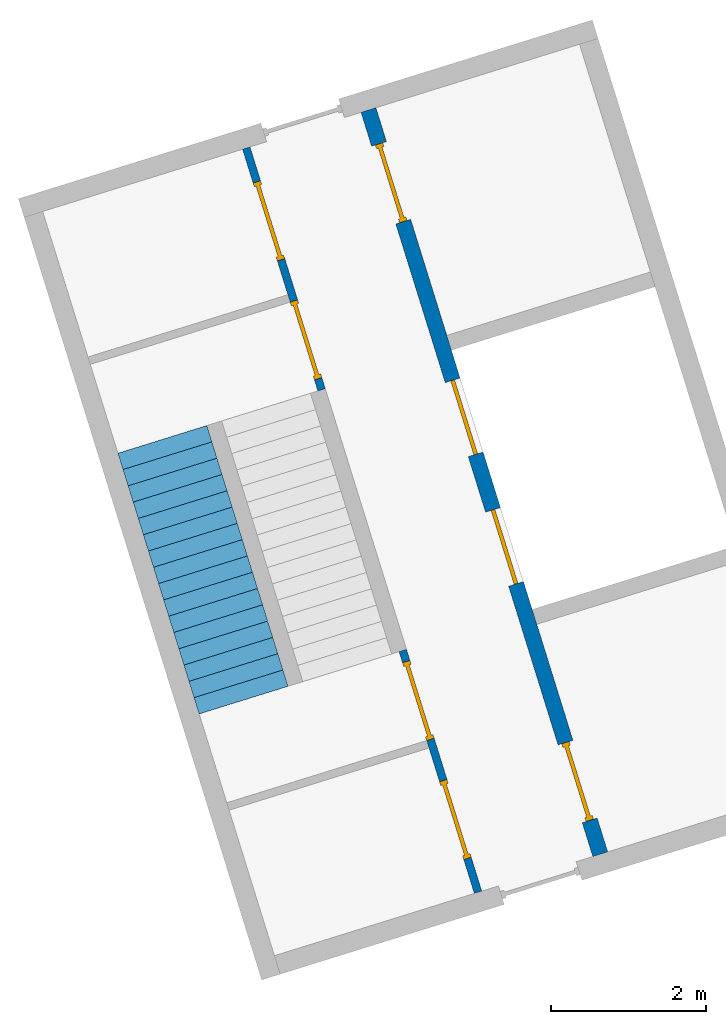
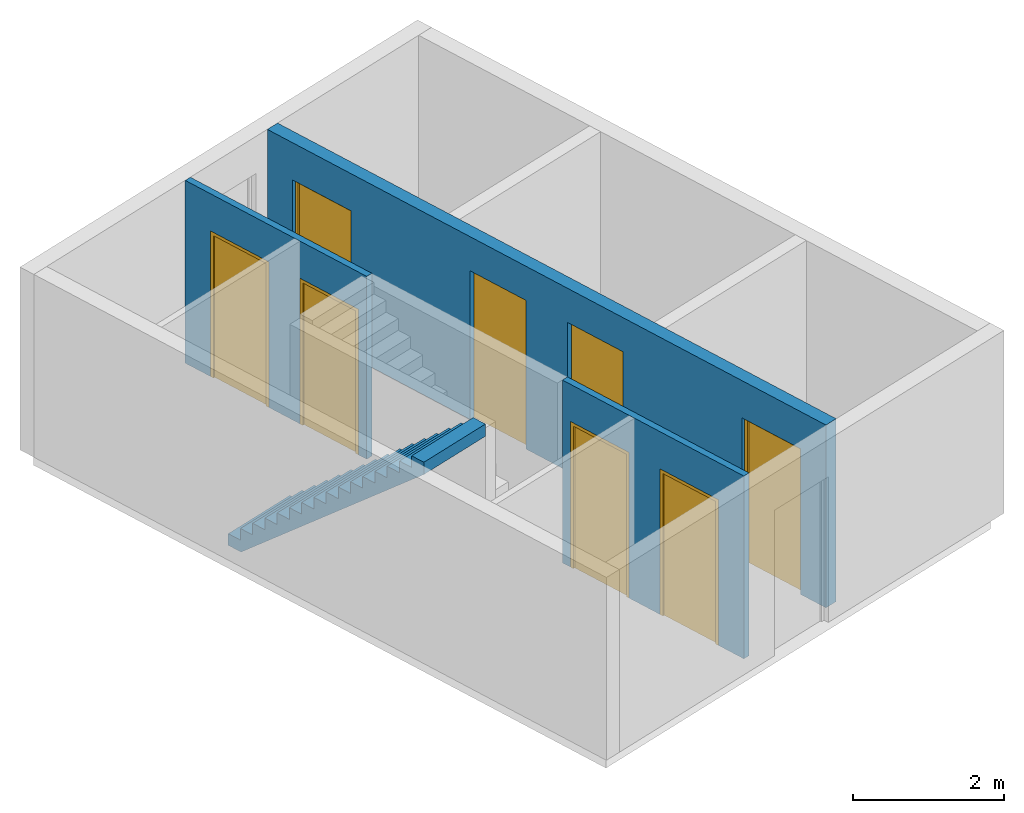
# One storey, part 2 of 3: 8 doors, 3 walls, 1 stair flight, 8 openings, 1 element without a shape of its own.
"""IFC4 building model written with IfcOpenShell, lengths in metres."""

from ifc_helpers import new_model, entity, si_unit, converted_unit, direction, frame, origin, place, context, subcontext, project, spatial, indexed_curve, outline, extrude, polygons, source, transform, mapped, material, constituent, constituent_set, type_object, type_shapes, element, fill, aggregate, save


model = new_model("IFC4")

# Units and contexts
model_context = context("Model", 3, precision=1e-05, world=origin(), true_north=direction((6.12323399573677e-17, 1.0)))
body_context = subcontext(model_context, "Body", "Model", "MODEL_VIEW")
ifc_project = project(units=[si_unit("LENGTHUNIT", "METRE"), si_unit("AREAUNIT", "SQUARE_METRE"), si_unit("VOLUMEUNIT", "CUBIC_METRE"), converted_unit("PLANEANGLEUNIT", "DEGREE", entity("IfcPlaneAngleMeasure", 0.0174532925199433), si_unit("PLANEANGLEUNIT", "RADIAN"), dimensions=[0, 0, 0, 0, 0, 0, 0])], contexts=[model_context])

# Site, building, storey
site_placement = place(None, frame((13.1347999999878, 11.9886000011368, 0.0), z_axis=(0.0, 0.0, 1.0), x_axis=(0.954770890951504, 0.297342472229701, 0.0)))
site = spatial("IfcSite", under=ifc_project, at=site_placement, Name="Schiehaven", CompositionType="ELEMENT")
building_placement = place(site_placement, origin())
building = spatial("IfcBuilding", under=site, at=building_placement, Name="VORM huis", CompositionType="ELEMENT")
storey_placement = place(building_placement, frame((0.0, 0.0, -3.2)))
storey = spatial("IfcBuildingStorey", under=building, at=storey_placement, Name="-1 kelder", CompositionType="ELEMENT", Elevation=-3.2)

# Wall, openings, doors
ifc_material_1 = material(Name="beton_gewapend_prefab-element", Category="Miscellaneous")
wall_type_1 = type_object("IfcWallType", Name="Basic Wall:28_WA_skelet_wand 200mm_gen", PredefinedType="STANDARD")
wall_1_placement = place(storey_placement, frame((69.5250000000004, 22.0749999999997, 0.0), z_axis=(0.0, 0.0, 1.0), x_axis=(0.0, -1.0, 0.0)))
wall_1 = element("IfcWall", 1, at=wall_1_placement, inside=storey, type_object=wall_type_1, material=ifc_material_1, Name="Constructieve wand", ObjectType="Wand", PredefinedType="NOTDEFINED", context=body_context, shape_type="Tessellation", body=[
    polygons([(1.50749999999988, -0.099999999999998, 2.34999999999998), (1.50749999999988, -0.099999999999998, 0.0), (3.64999999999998, -0.100000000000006, 0.0), (3.64999999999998, -0.100000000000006, 2.39999999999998), (4.64999999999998, -0.099999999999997, 2.39999999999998), (4.64999999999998, -0.099999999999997, 0.0), (5.39999999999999, -0.0999999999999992, 0.0), (5.39999999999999, -0.0999999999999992, 2.39999999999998), (6.39999999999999, -0.0999999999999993, 2.39999999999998), (6.39999999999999, -0.0999999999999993, 0.0), (8.54249999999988, -0.0999999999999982, 0.0), (8.54249999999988, -0.0999999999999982, 2.34999999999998), (9.59249999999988, -0.0999999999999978, 2.34999999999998), (9.59249999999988, -0.0999999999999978, 0.0), (10.05, -0.0999999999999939, 0.0), (10.05, -0.0999999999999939, 2.95), (0.0, -0.0999999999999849, 2.95), (0.0, -0.0999999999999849, 0.0), (0.457499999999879, -0.0999999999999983, 0.0), (0.457499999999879, -0.0999999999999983, 2.34999999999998), (3.64999999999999, 0.100000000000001, 0.0), (3.27499999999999, 0.0999999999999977, 0.0), (3.07499999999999, 0.100000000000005, 0.0), (1.50749999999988, 0.0999999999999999, 0.0), (1.50749999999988, 0.0999999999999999, 2.34999999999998), (0.457499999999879, 0.0999999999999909, 2.34999999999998), (0.457499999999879, 0.0999999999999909, 0.0), (0.0, 0.100000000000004, 0.0), (0.0, 0.100000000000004, 2.95), (3.07499999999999, 0.100000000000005, 2.95), (3.27499999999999, 0.0999999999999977, 2.95), (6.77499999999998, 0.100000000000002, 2.95), (6.97499999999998, 0.100000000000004, 2.95), (10.05, 0.100000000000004, 2.95), (10.05, 0.100000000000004, 0.0), (9.59249999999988, 0.1, 0.0), (9.59249999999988, 0.1, 2.34999999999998), (8.54249999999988, 0.099999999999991, 2.34999999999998), (8.54249999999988, 0.099999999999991, 0.0), (6.97499999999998, 0.100000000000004, 0.0), (6.77499999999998, 0.100000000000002, 0.0), (6.39999999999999, 0.0999999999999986, 0.0), (6.39999999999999, 0.0999999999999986, 2.39999999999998), (5.39999999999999, 0.0999999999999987, 2.39999999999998), (5.39999999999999, 0.0999999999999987, 0.0), (4.64999999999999, 0.10000000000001, 0.0), (4.64999999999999, 0.10000000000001, 2.39999999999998), (3.64999999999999, 0.100000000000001, 2.39999999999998)], [[[1, 2, 3, 4, 5, 6, 7, 8, 9, 10, 11, 12, 13, 14, 15, 16, 17, 18, 19, 20]], [[21, 22, 23, 24, 25, 26, 27, 28, 29, 30, 31, 32, 33, 34, 35, 36, 37, 38, 39, 40, 41, 42, 43, 44, 45, 46, 47, 48]], [[19, 18, 28, 27]], [[16, 15, 35, 34]], [[17, 16, 34, 33, 32, 31, 30, 29]], [[18, 17, 29, 28]], [[5, 47, 46, 6]], [[48, 4, 3, 21]], [[47, 5, 4, 48]], [[9, 43, 42, 10]], [[44, 8, 7, 45]], [[43, 9, 8, 44]], [[27, 26, 20, 19]], [[25, 24, 2, 1]], [[26, 25, 1, 20]], [[14, 13, 37, 36]], [[12, 11, 39, 38]], [[13, 12, 38, 37]], [[3, 2, 24, 23, 22, 21]], [[6, 46, 45, 7]], [[36, 35, 15, 14]], [[42, 41, 40, 39, 11, 10]]], closed=True),
])
opening_1_placement = place(wall_1_placement, frame((22.0749999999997, -69.5250000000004, 0.0), z_axis=(0.0, 0.0, 1.0), x_axis=(0.0, 1.0, 0.0)))
opening_1 = element("IfcOpeningElement", 2, at=opening_1_placement, cuts=wall_1, Name="Brandweerlift", PredefinedType="OPENING", context=body_context, shape_type="SweptSolid", body=[
    extrude(outline(indexed_curve([(-1.19999999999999, -0.499999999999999), (1.19999999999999, -0.499999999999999), (1.19999999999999, 0.500000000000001), (-1.19999999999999, 0.500000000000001), (-1.19999999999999, -0.499999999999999)], self_intersect=False)), frame((69.2563279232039, 17.9249999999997, 1.19999999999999), z_axis=(1.0, 0.0, 0.0), x_axis=(0.0, 0.0, -1.0)), (0.0, 0.0, 1.0), 0.756310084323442),
])
opening_2_placement = place(wall_1_placement, frame((22.0749999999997, -69.5250000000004, 0.0), z_axis=(0.0, 0.0, 1.0), x_axis=(0.0, 1.0, 0.0)))
opening_2 = element("IfcOpeningElement", 3, at=opening_2_placement, cuts=wall_1, Name="Brandweerlift", PredefinedType="OPENING", context=body_context, shape_type="SweptSolid", body=[
    extrude(outline(indexed_curve([(-1.19999999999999, -0.500000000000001), (1.19999999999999, -0.500000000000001), (1.19999999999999, 0.499999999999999), (-1.19999999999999, 0.499999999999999), (-1.19999999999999, -0.500000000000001)], self_intersect=False)), frame((69.2563279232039, 16.1749999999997, 1.19999999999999), z_axis=(1.0, 0.0, 0.0), x_axis=(0.0, 0.0, -1.0)), (0.0, 0.0, 1.0), 0.756310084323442),
])
opening_3_placement = place(wall_1_placement, frame((9.59249999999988, 0.0999999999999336, 0.0)))
opening_3 = element("IfcOpeningElement", 4, at=opening_3_placement, cuts=wall_1, Name="Vluchtdeur", PredefinedType="OPENING", context=body_context, shape_type="SweptSolid", body=[
    extrude(outline(indexed_curve([(2.34999999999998, 1.08286712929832e-15), (2.34999999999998, 1.05), (0.0, 1.05), (0.0, 1.08286712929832e-15), (2.34999999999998, 1.08286712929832e-15)], self_intersect=False)), frame((0.0, 0.0, 0.0), z_axis=(0.0, -1.0, 0.0), x_axis=(0.0, 0.0, 1.0)), (0.0, 0.0, 1.0), 0.2),
])
opening_4_placement = place(wall_1_placement, frame((1.50749999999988, 0.100000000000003, 0.0)))
opening_4 = element("IfcOpeningElement", 5, at=opening_4_placement, cuts=wall_1, Name="Vluchtdeur", PredefinedType="OPENING", context=body_context, shape_type="SweptSolid", body=[
    extrude(outline(indexed_curve([(2.34999999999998, 1.05), (0.0, 1.05), (0.0, -7.13446048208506e-29), (2.34999999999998, -7.13446048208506e-29), (2.34999999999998, 1.05)], self_intersect=False)), frame((0.0, 0.0, 0.0), z_axis=(0.0, -1.0, 0.0), x_axis=(0.0, 0.0, 1.0)), (0.0, 0.0, 1.0), 0.2),
])
ifc_material_2 = material(Name="metaal_aluminium_ntb", Category="Miscellaneous")
door_type_1 = type_object("IfcDoorType", Name="66_WI_liftdeur:brandweerlift - eenzijdig toegankelijk", OperationType="NOTDEFINED", PredefinedType="DOOR", material=ifc_material_2)
shared_shape_1 = source(origin(), body_context, "Body", "SweptSolid", [
    extrude(outline(indexed_curve([(-0.0250000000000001, -0.25), (0.0249999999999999, -0.25), (0.0250000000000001, 0.25), (-0.0249999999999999, 0.25), (-0.0250000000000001, -0.25)], self_intersect=False)), frame((0.250000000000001, 0.487638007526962, 0.0), z_axis=(0.0, 0.0, 1.0), x_axis=(0.0, 1.0, 0.0)), (0.0, 0.0, 1.0), 2.39999999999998),
    extrude(outline(indexed_curve([(-0.0250000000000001, -0.25), (0.0249999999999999, -0.25), (0.0250000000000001, 0.25), (-0.0249999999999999, 0.25), (-0.0250000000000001, -0.25)], self_intersect=False)), frame((0.750000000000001, 0.48763800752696, 0.0), z_axis=(0.0, 0.0, 1.0), x_axis=(0.0, 1.0, 0.0)), (0.0, 0.0, 1.0), 2.39999999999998),
])
type_shapes(door_type_1, [shared_shape_1])
door_1_placement = place(opening_1_placement, frame((70.0126380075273, 17.4249999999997, 0.0), z_axis=(0.0, 0.0, 1.0), x_axis=(0.0, 1.0, 0.0)))
door_1 = element("IfcDoor", 6, at=door_1_placement, inside=storey, type_object=door_type_1, material=ifc_material_2, Name="Brandweerlift", ObjectType="Transport", OperationType="NOTDEFINED", OverallHeight=2.39999999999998, OverallWidth=1.0, PredefinedType="DOOR", context=body_context, shape_type="MappedRepresentation", body=[
    mapped(shared_shape_1, transform((0.0, 0.0, 0.0), scale=1.0)),
])
fill(opening_1, door_1)
door_2_placement = place(opening_2_placement, frame((70.0126380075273, 15.6749999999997, 0.0), z_axis=(0.0, 0.0, 1.0), x_axis=(0.0, 1.0, 0.0)))
door_2 = element("IfcDoor", 7, at=door_2_placement, inside=storey, type_object=door_type_1, material=ifc_material_2, Name="Brandweerlift", ObjectType="Transport", OperationType="NOTDEFINED", OverallHeight=2.39999999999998, OverallWidth=1.0, PredefinedType="DOOR", context=body_context, shape_type="MappedRepresentation", body=[
    mapped(shared_shape_1, transform((0.0, 0.0, 0.0), scale=1.0)),
])
fill(opening_2, door_2)
ifc_material_3 = material(Name="PD_a_binnenwandopeningen", Category="Miscellaneous")
ifc_constituent_1 = constituent(ifc_material_3, Name="PD_a_binnenwandopeningen", Category="Miscellaneous")
ifc_constituent_2 = constituent(ifc_material_2, Name="metaal_aluminium_ntb", Category="Miscellaneous")
ifc_constituent_set_1 = constituent_set(constituents=[ifc_constituent_1, ifc_constituent_2])
ifc_constituent_3 = constituent(ifc_material_3, Name="PD_a_binnenwandopeningen", Category="Miscellaneous")
ifc_constituent_4 = constituent(ifc_material_2, Name="Panel", Category="Miscellaneous")
ifc_constituent_set_2 = constituent_set(constituents=[ifc_constituent_3, ifc_constituent_4])
door_type_2 = type_object("IfcDoorType", Name="32_DO_binnendeur enkel:binnendeur zelfsluitend 30min", OperationType="NOTDEFINED", PredefinedType="DOOR", material=ifc_constituent_set_2)
shared_shape_2 = source(origin(), body_context, "Body", "SweptSolid", [
    extrude(outline(indexed_curve([(0.475, -1.16249999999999), (0.525, -1.16249999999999), (0.525, 1.18749999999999), (-0.525, 1.18749999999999), (-0.525, -1.16249999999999), (-0.475, -1.16249999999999), (-0.475, 1.13749999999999), (0.475, 1.13749999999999), (0.475, -1.16249999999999)], self_intersect=False)), frame((0.525000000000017, 0.149999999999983, 1.16249999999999), z_axis=(0.0, -1.0, 0.0), x_axis=(1.0, 0.0, 0.0)), (0.0, 0.0, 1.0), 0.1),
    extrude(outline(indexed_curve([(-0.475, -0.025), (0.475, -0.025), (0.475, 0.025), (-0.475, 0.025), (-0.475, -0.025)], self_intersect=False)), frame((0.525000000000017, 0.0999999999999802, 0.0)), (0.0, 0.0, 1.0), 2.29999999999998),
])
type_shapes(door_type_2, [shared_shape_2])
door_3_placement = place(opening_3_placement, frame((0.0, 0.0, 0.0), z_axis=(0.0, 0.0, 1.0), x_axis=(-1.0, 0.0, 0.0)))
door_3 = element("IfcDoor", 8, at=door_3_placement, inside=storey, type_object=door_type_2, material=ifc_constituent_set_1, Name="Vluchtdeur", ObjectType="Deur", OperationType="NOTDEFINED", OverallHeight=2.34999999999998, OverallWidth=1.05, PredefinedType="DOOR", context=body_context, shape_type="MappedRepresentation", body=[
    mapped(shared_shape_2, transform((0.0, 0.0, 0.0), scale=1.0)),
])
fill(opening_3, door_3)
ifc_constituent_5 = constituent(ifc_material_3, Name="PD_a_binnenwandopeningen", Category="Miscellaneous")
ifc_constituent_6 = constituent(ifc_material_2, Name="metaal_aluminium_ntb", Category="Miscellaneous")
ifc_constituent_set_3 = constituent_set(constituents=[ifc_constituent_5, ifc_constituent_6])
ifc_constituent_7 = constituent(ifc_material_3, Name="PD_a_binnenwandopeningen", Category="Miscellaneous")
ifc_constituent_8 = constituent(ifc_material_2, Name="Panel", Category="Miscellaneous")
ifc_constituent_set_4 = constituent_set(constituents=[ifc_constituent_7, ifc_constituent_8])
door_type_3 = type_object("IfcDoorType", Name="32_DO_binnendeur enkel:binnendeur zelfsluitend 30min", OperationType="NOTDEFINED", PredefinedType="DOOR", material=ifc_constituent_set_4)
shared_shape_3 = source(origin(), body_context, "Body", "SweptSolid", [
    extrude(outline(indexed_curve([(-1.16249999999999, -0.525), (1.18749999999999, -0.525000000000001), (1.18749999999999, 0.525), (-1.16249999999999, 0.525), (-1.16249999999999, 0.475), (1.13749999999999, 0.475), (1.13749999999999, -0.475), (-1.16249999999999, -0.475), (-1.16249999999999, -0.525)], self_intersect=False)), frame((0.525000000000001, 0.0499999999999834, 1.16249999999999), z_axis=(0.0, 1.0, 0.0), x_axis=(0.0, 0.0, 1.0)), (0.0, 0.0, 1.0), 0.1),
    extrude(outline(indexed_curve([(-0.025, -0.475), (0.025, -0.475), (0.025, 0.475), (-0.025, 0.475), (-0.025, -0.475)], self_intersect=False)), frame((0.525000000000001, 0.0999999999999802, 0.0), z_axis=(0.0, 0.0, 1.0), x_axis=(0.0, 1.0, 0.0)), (0.0, 0.0, 1.0), 2.29999999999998),
])
type_shapes(door_type_3, [shared_shape_3])
door_4_placement = place(opening_4_placement, frame((0.0, 0.0, 0.0), z_axis=(0.0, 0.0, 1.0), x_axis=(-1.0, 0.0, 0.0)))
door_4 = element("IfcDoor", 9, at=door_4_placement, inside=storey, type_object=door_type_3, material=ifc_constituent_set_3, Name="Vluchtdeur", ObjectType="Deur", OperationType="NOTDEFINED", OverallHeight=2.34999999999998, OverallWidth=1.05, PredefinedType="DOOR", context=body_context, shape_type="MappedRepresentation", body=[
    mapped(shared_shape_3, transform((0.0, 0.0, 0.0), scale=1.0)),
])
fill(opening_4, door_4)

ifc_material_4 = material(Name="ntb_ntb_ntb", Category="Miscellaneous")
wall_type_2 = type_object("IfcWallType", Name="Basic Wall:22_WA_afbouw_binnenwand 100mm_gen", PredefinedType="STANDARD")
wall_2_placement = place(storey_placement, frame((67.8750000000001, 22.0749999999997, 0.0), z_axis=(0.0, 0.0, 1.0), x_axis=(0.0, -1.0, 0.0)))
wall_2 = element("IfcWall", 10, at=wall_2_placement, inside=storey, type_object=wall_type_2, material=ifc_material_4, Name="Binnenwand", ObjectType="Wand", PredefinedType="NOTDEFINED", context=body_context, shape_type="Tessellation", body=[
    polygons([(0.0, -0.0500000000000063, 0.0), (0.457499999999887, -0.0500000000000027, 0.0), (0.457499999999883, -0.0500000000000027, 2.34999999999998), (1.50749999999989, -0.0500000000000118, 2.34999999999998), (1.50749999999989, -0.0500000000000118, 0.0), (1.96499999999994, -0.0500000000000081, 0.0), (2.06499999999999, -0.0500000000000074, 0.0), (2.06499999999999, -0.0500000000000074, 2.34999999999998), (3.11499999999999, -0.0500000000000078, 2.34999999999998), (3.11499999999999, -0.0500000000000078, 0.0), (3.26499999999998, -0.0500000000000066, 0.0), (3.26499999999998, -0.0500000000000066, 2.95), (2.06499999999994, -0.0500000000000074, 2.95), (1.96499999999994, -0.0500000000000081, 2.95), (0.0, -0.0500000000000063, 2.95), (0.457499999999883, 0.0500000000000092, 2.34999999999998), (0.457499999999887, 0.0500000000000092, 0.0), (0.0, 0.0500000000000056, 0.0), (0.0, 0.0500000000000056, 2.95), (3.26499999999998, 0.0499999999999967, 2.95), (3.26499999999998, 0.0499999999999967, 0.0), (3.11499999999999, 0.0499999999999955, 0.0), (3.11499999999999, 0.0499999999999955, 2.34999999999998), (2.06499999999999, 0.0499999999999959, 2.34999999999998), (2.06499999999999, 0.0499999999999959, 0.0), (1.50749999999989, 0.0500000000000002, 0.0), (1.50749999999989, 0.0500000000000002, 2.34999999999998)], [[[1, 2, 3, 4, 5, 6, 7, 8, 9, 10, 11, 12, 13, 14, 15]], [[16, 17, 18, 19, 20, 21, 22, 23, 24, 25, 26, 27]], [[18, 17, 2, 1]], [[12, 11, 21, 20]], [[15, 14, 13, 12, 20, 19]], [[1, 15, 19, 18]], [[24, 8, 7, 25]], [[9, 23, 22, 10]], [[8, 24, 23, 9]], [[5, 4, 27, 26]], [[3, 2, 17, 16]], [[4, 3, 16, 27]], [[26, 25, 7, 6, 5]], [[21, 11, 10, 22]]], closed=True),
])
opening_5_placement = place(wall_2_placement, frame((3.11499999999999, 0.0499999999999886, 0.0)))
opening_5 = element("IfcOpeningElement", 11, at=opening_5_placement, cuts=wall_2, Name="Vluchtdeur", PredefinedType="OPENING", context=body_context, shape_type="SweptSolid", body=[
    extrude(outline(indexed_curve([(2.34999999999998, 1.05), (0.0, 1.05), (0.0, 1.08286712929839e-15), (2.34999999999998, 1.08286712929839e-15), (2.34999999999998, 1.05)], self_intersect=False)), frame((0.0, 0.0, 0.0), z_axis=(0.0, -1.0, 0.0), x_axis=(0.0, 0.0, 1.0)), (0.0, 0.0, 1.0), 0.1),
])
opening_6_placement = place(wall_2_placement, frame((0.457499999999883, -0.0499999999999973, 0.0)))
opening_6 = element("IfcOpeningElement", 12, at=opening_6_placement, cuts=wall_2, Name="Vluchtdeur", PredefinedType="OPENING", context=body_context, shape_type="SweptSolid", body=[
    extrude(outline(indexed_curve([(2.34999999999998, 1.05), (0.0, 1.05), (0.0, 0.0), (2.34999999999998, 0.0), (2.34999999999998, 1.05)], self_intersect=False)), frame((0.0, 0.0, 0.0), z_axis=(0.0, 1.0, 0.0), x_axis=(0.0, 0.0, 1.0)), (0.0, 0.0, 1.0), 0.1),
])
ifc_constituent_9 = constituent(ifc_material_3, Name="PD_a_binnenwandopeningen", Category="Miscellaneous")
ifc_constituent_10 = constituent(ifc_material_2, Name="metaal_aluminium_ntb", Category="Miscellaneous")
ifc_constituent_set_5 = constituent_set(constituents=[ifc_constituent_9, ifc_constituent_10])
ifc_constituent_11 = constituent(ifc_material_3, Name="PD_a_binnenwandopeningen", Category="Miscellaneous")
ifc_constituent_12 = constituent(ifc_material_2, Name="Panel", Category="Miscellaneous")
ifc_constituent_set_6 = constituent_set(constituents=[ifc_constituent_11, ifc_constituent_12])
door_type_4 = type_object("IfcDoorType", Name="32_DO_binnendeur enkel:binnendeur zelfsluitend 30min", OperationType="NOTDEFINED", PredefinedType="DOOR", material=ifc_constituent_set_6)
shared_shape_4 = source(origin(), body_context, "Body", "SweptSolid", [
    extrude(outline(indexed_curve([(-1.16249999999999, -0.525000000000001), (1.18749999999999, -0.525), (1.18749999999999, 0.525), (-1.16249999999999, 0.525), (-1.16249999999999, 0.475), (1.13749999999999, 0.475), (1.13749999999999, -0.475), (-1.16249999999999, -0.475), (-1.16249999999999, -0.525000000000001)], self_intersect=False)), frame((0.525000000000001, 0.0, 1.16249999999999), z_axis=(0.0, 1.0, 0.0), x_axis=(0.0, 0.0, 1.0)), (0.0, 0.0, 1.0), 0.1),
    extrude(outline(indexed_curve([(-0.025, -0.475), (0.025, -0.475), (0.025, 0.475), (-0.025, 0.475), (-0.025, -0.475)], self_intersect=False)), frame((0.525000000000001, 0.0499999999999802, 0.0), z_axis=(0.0, 0.0, 1.0), x_axis=(0.0, 1.0, 0.0)), (0.0, 0.0, 1.0), 2.29999999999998),
])
type_shapes(door_type_4, [shared_shape_4])
door_5_placement = place(opening_5_placement, frame((0.0, 0.0, 0.0), z_axis=(0.0, 0.0, 1.0), x_axis=(-1.0, 0.0, 0.0)))
door_5 = element("IfcDoor", 13, at=door_5_placement, inside=storey, type_object=door_type_4, material=ifc_constituent_set_5, Name="Vluchtdeur", ObjectType="Deur", OperationType="NOTDEFINED", OverallHeight=2.34999999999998, OverallWidth=1.05, PredefinedType="DOOR", context=body_context, shape_type="MappedRepresentation", body=[
    mapped(shared_shape_4, transform((0.0, 0.0, 0.0), scale=1.0)),
])
fill(opening_5, door_5)
ifc_constituent_13 = constituent(ifc_material_3, Name="PD_a_binnenwandopeningen", Category="Miscellaneous")
ifc_constituent_14 = constituent(ifc_material_2, Name="metaal_aluminium_ntb", Category="Miscellaneous")
ifc_constituent_set_7 = constituent_set(constituents=[ifc_constituent_13, ifc_constituent_14])
door_6_placement = place(opening_6_placement, origin())
door_6 = element("IfcDoor", 14, at=door_6_placement, inside=storey, type_object=door_type_4, material=ifc_constituent_set_7, Name="Vluchtdeur", ObjectType="Deur", OperationType="NOTDEFINED", OverallHeight=2.34999999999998, OverallWidth=1.05, PredefinedType="DOOR", context=body_context, shape_type="MappedRepresentation", body=[
    mapped(shared_shape_4, transform((0.0, 0.0, 0.0), scale=1.0)),
])
fill(opening_6, door_6)

wall_3_placement = place(storey_placement, frame((67.875, 12.0249999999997, 0.0), z_axis=(0.0, 0.0, 1.0), x_axis=(0.0, 1.0, 0.0)))
wall_3 = element("IfcWall", 15, at=wall_3_placement, inside=storey, type_object=wall_type_2, material=ifc_material_4, Name="Binnenwand", ObjectType="Wand", PredefinedType="NOTDEFINED", context=body_context, shape_type="Tessellation", body=[
    polygons([(0.0, -0.0500000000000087, 0.0), (0.457500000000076, -0.0500000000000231, 0.0), (0.457500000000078, -0.0500000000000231, 2.34999999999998), (1.50750000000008, -0.0500000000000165, 2.34999999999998), (1.50750000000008, -0.0500000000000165, 0.0), (2.06499999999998, -0.0500000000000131, 0.0), (2.06499999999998, -0.0500000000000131, 2.34999999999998), (3.11499999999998, -0.0500000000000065, 2.34999999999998), (3.11499999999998, -0.0500000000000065, 0.0), (3.26499999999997, -0.0500000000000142, 0.0), (3.26499999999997, -0.0500000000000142, 2.95), (0.0, -0.0500000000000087, 2.95), (0.457500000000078, 0.0499999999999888, 2.34999999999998), (0.457500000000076, 0.0499999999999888, 0.0), (0.0, 0.0500000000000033, 0.0), (0.0, 0.0500000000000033, 2.95), (1.96499999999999, 0.0499999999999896, 2.95), (2.06499999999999, 0.0499999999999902, 2.95), (3.26499999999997, 0.049999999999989, 2.95), (3.26499999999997, 0.049999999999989, 0.0), (3.11499999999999, 0.0499999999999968, 0.0), (3.11499999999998, 0.0499999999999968, 2.34999999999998), (2.06499999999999, 0.0499999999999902, 2.34999999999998), (2.06499999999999, 0.0499999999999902, 0.0), (1.96499999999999, 0.0499999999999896, 0.0), (1.50750000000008, 0.0499999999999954, 0.0), (1.50750000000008, 0.0499999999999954, 2.34999999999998)], [[[1, 2, 3, 4, 5, 6, 7, 8, 9, 10, 11, 12]], [[13, 14, 15, 16, 17, 18, 19, 20, 21, 22, 23, 24, 25, 26, 27]], [[15, 14, 2, 1]], [[11, 10, 20, 19]], [[12, 11, 19, 18, 17, 16]], [[1, 12, 16, 15]], [[23, 7, 6, 24]], [[7, 23, 22, 8]], [[8, 22, 21, 9]], [[5, 4, 27, 26]], [[3, 2, 14, 13]], [[4, 3, 13, 27]], [[26, 25, 24, 6, 5]], [[20, 10, 9, 21]]], closed=True),
])
opening_7_placement = place(wall_3_placement, frame((2.06499999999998, -0.0500000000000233, 0.0)))
opening_7 = element("IfcOpeningElement", 16, at=opening_7_placement, cuts=wall_3, Name="Vluchtdeur", PredefinedType="OPENING", context=body_context, shape_type="SweptSolid", body=[
    extrude(outline(indexed_curve([(2.34999999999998, 1.05), (0.0, 1.05), (0.0, 1.35358391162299e-15), (2.34999999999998, 1.35358391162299e-15), (2.34999999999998, 1.05)], self_intersect=False)), frame((0.0, 0.0, 0.0), z_axis=(0.0, 1.0, 0.0), x_axis=(0.0, 0.0, 1.0)), (0.0, 0.0, 1.0), 0.1),
])
opening_8_placement = place(wall_3_placement, frame((1.50750000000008, 0.04999999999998, 0.0)))
opening_8 = element("IfcOpeningElement", 17, at=opening_8_placement, cuts=wall_3, Name="Vluchtdeur", PredefinedType="OPENING", context=body_context, shape_type="SweptSolid", body=[
    extrude(outline(indexed_curve([(2.34999999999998, 1.35358391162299e-15), (2.34999999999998, 1.05), (0.0, 1.05), (0.0, 1.35358391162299e-15), (2.34999999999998, 1.35358391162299e-15)], self_intersect=False)), frame((0.0, 0.0, 0.0), z_axis=(0.0, -1.0, 0.0), x_axis=(0.0, 0.0, 1.0)), (0.0, 0.0, 1.0), 0.1),
])
ifc_constituent_15 = constituent(ifc_material_3, Name="PD_a_binnenwandopeningen", Category="Miscellaneous")
ifc_constituent_16 = constituent(ifc_material_2, Name="metaal_aluminium_ntb", Category="Miscellaneous")
ifc_constituent_set_8 = constituent_set(constituents=[ifc_constituent_15, ifc_constituent_16])
ifc_constituent_17 = constituent(ifc_material_3, Name="PD_a_binnenwandopeningen", Category="Miscellaneous")
ifc_constituent_18 = constituent(ifc_material_2, Name="Panel", Category="Miscellaneous")
ifc_constituent_set_9 = constituent_set(constituents=[ifc_constituent_17, ifc_constituent_18])
door_type_5 = type_object("IfcDoorType", Name="32_DO_binnendeur enkel:binnendeur zelfsluitend 30min", OperationType="NOTDEFINED", PredefinedType="DOOR", material=ifc_constituent_set_9)
shared_shape_5 = source(origin(), body_context, "Body", "SweptSolid", [
    extrude(outline(indexed_curve([(0.475, -1.16249999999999), (0.525, -1.16249999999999), (0.525, 1.18749999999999), (-0.525, 1.18749999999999), (-0.525, -1.16249999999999), (-0.475, -1.16249999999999), (-0.475, 1.13749999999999), (0.475, 1.13749999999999), (0.475, -1.16249999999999)], self_intersect=False)), frame((0.525000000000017, 0.100000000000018, 1.16249999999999), z_axis=(0.0, -1.0, 0.0), x_axis=(1.0, 0.0, 0.0)), (0.0, 0.0, 1.0), 0.1),
    extrude(outline(indexed_curve([(-0.475, -0.025), (0.475, -0.025), (0.475, 0.025), (-0.475, 0.025), (-0.475, -0.025)], self_intersect=False)), frame((0.525000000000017, 0.0499999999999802, 0.0)), (0.0, 0.0, 1.0), 2.29999999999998),
])
type_shapes(door_type_5, [shared_shape_5])
door_7_placement = place(opening_8_placement, frame((0.0, 0.0, 0.0), z_axis=(0.0, 0.0, 1.0), x_axis=(-1.0, 0.0, 0.0)))
door_7 = element("IfcDoor", 18, at=door_7_placement, inside=storey, type_object=door_type_5, material=ifc_constituent_set_8, Name="Vluchtdeur", ObjectType="Deur", OperationType="NOTDEFINED", OverallHeight=2.34999999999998, OverallWidth=1.05, PredefinedType="DOOR", context=body_context, shape_type="MappedRepresentation", body=[
    mapped(shared_shape_5, transform((0.0, 0.0, 0.0), scale=1.0)),
])
fill(opening_8, door_7)
ifc_constituent_19 = constituent(ifc_material_3, Name="PD_a_binnenwandopeningen", Category="Miscellaneous")
ifc_constituent_20 = constituent(ifc_material_2, Name="metaal_aluminium_ntb", Category="Miscellaneous")
ifc_constituent_set_10 = constituent_set(constituents=[ifc_constituent_19, ifc_constituent_20])
door_8_placement = place(opening_7_placement, origin())
door_8 = element("IfcDoor", 19, at=door_8_placement, inside=storey, type_object=door_type_4, material=ifc_constituent_set_10, Name="Vluchtdeur", ObjectType="Deur", OperationType="NOTDEFINED", OverallHeight=2.34999999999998, OverallWidth=1.05, PredefinedType="DOOR", context=body_context, shape_type="MappedRepresentation", body=[
    mapped(shared_shape_4, transform((0.0, 0.0, 0.0), scale=1.0)),
])
fill(opening_7, door_8)

# Stair, stair flight
stair_type = type_object("IfcStairType", Name="Trap", PredefinedType="STRAIGHT_RUN_STAIR")
stair_placement = place(storey_placement, origin())
stair = element("IfcStair", 20, at=stair_placement, inside=storey, type_object=stair_type, Name="Hoofdtrap", ObjectType="Trap", PredefinedType="STRAIGHT_RUN_STAIR")
stair_flight_type = type_object("IfcStairFlightType", Name="Monolithic Run:NLRS_24_STRR_trap-beton prefab-monolithisch-recht_gen_rsf", PredefinedType="STRAIGHT")
stair_flight_placement = place(stair_placement, frame((65.1250000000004, 15.2899999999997, 0.0)))
stair_flight = element("IfcStairFlight", 21, at=stair_flight_placement, type_object=stair_flight_type, material=ifc_material_1, Name="Hoofdtrap Run 1", ObjectType="Monolithic Run:NLRS_24_STRR_trap-beton prefab-monolithisch-recht_gen_rsf", PredefinedType="STRAIGHT", context=body_context, shape_type="Tessellation", body=[
    polygons([(1.20000000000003, 3.3, 0.188235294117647), (1.20000000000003, 3.52, 0.188235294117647), (2.8421709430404e-14, 3.52, 0.188235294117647), (2.8421709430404e-14, 3.3, 0.188235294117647), (1.20000000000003, 3.3, 0.0), (1.20000000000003, 3.52, 0.0), (2.8421709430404e-14, 3.52, 0.0), (2.8421709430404e-14, 3.3, 0.0), (1.20000000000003, 3.07999999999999, 0.376470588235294), (1.20000000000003, 3.3, 0.376470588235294), (2.8421709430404e-14, 3.3, 0.376470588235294), (2.8421709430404e-14, 3.07999999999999, 0.376470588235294), (1.20000000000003, 3.08, 0.179057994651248), (1.20000000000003, 3.28927403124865, -4.44089209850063e-16), (2.8421709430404e-14, 3.28927403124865, -4.44089209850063e-16), (2.8421709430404e-14, 3.08, 0.179057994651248), (1.20000000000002, 2.85999999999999, 0.564705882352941), (1.20000000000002, 3.07999999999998, 0.564705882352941), (1.4210854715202e-14, 3.07999999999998, 0.564705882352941), (1.4210854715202e-14, 2.85999999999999, 0.564705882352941), (1.20000000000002, 2.85999999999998, 0.367293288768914), (1.4210854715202e-14, 2.85999999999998, 0.367293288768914), (1.20000000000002, 2.64, 0.752941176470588), (1.20000000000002, 2.86, 0.752941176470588), (1.4210854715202e-14, 2.86, 0.752941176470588), (1.4210854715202e-14, 2.64, 0.752941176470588), (1.20000000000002, 2.64, 0.555528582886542), (1.4210854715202e-14, 2.64, 0.555528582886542), (1.20000000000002, 2.42, 0.941176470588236), (1.20000000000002, 2.64, 0.941176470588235), (1.4210854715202e-14, 2.64, 0.941176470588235), (1.4210854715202e-14, 2.42, 0.941176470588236), (1.20000000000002, 2.42000000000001, 0.743763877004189), (1.4210854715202e-14, 2.42000000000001, 0.743763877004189), (1.20000000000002, 2.2, 1.12941176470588), (1.20000000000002, 2.42, 1.12941176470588), (1.4210854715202e-14, 2.42, 1.12941176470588), (1.4210854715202e-14, 2.2, 1.12941176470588), (1.20000000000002, 2.2, 0.931999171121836), (1.4210854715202e-14, 2.2, 0.931999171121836), (1.20000000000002, 1.97999999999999, 1.31764705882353), (1.20000000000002, 2.2, 1.31764705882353), (1.4210854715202e-14, 2.2, 1.31764705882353), (1.4210854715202e-14, 1.97999999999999, 1.31764705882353), (1.20000000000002, 1.98, 1.12023446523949), (1.4210854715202e-14, 1.98, 1.12023446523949), (1.20000000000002, 1.75999999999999, 1.50588235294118), (1.20000000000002, 1.97999999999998, 1.50588235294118), (1.4210854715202e-14, 1.97999999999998, 1.50588235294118), (1.4210854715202e-14, 1.75999999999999, 1.50588235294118), (1.20000000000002, 1.75999999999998, 1.30846975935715), (1.4210854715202e-14, 1.75999999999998, 1.30846975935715), (1.20000000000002, 1.54, 1.69411764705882), (1.20000000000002, 1.76, 1.69411764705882), (1.4210854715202e-14, 1.76, 1.69411764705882), (1.4210854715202e-14, 1.54, 1.69411764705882), (1.20000000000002, 1.54, 1.49670505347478), (1.4210854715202e-14, 1.54, 1.49670505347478), (1.20000000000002, 1.32, 1.88235294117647), (1.20000000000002, 1.54, 1.88235294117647), (1.4210854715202e-14, 1.54, 1.88235294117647), (1.4210854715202e-14, 1.32, 1.88235294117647), (1.20000000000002, 1.32, 1.68494034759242), (1.4210854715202e-14, 1.32, 1.68494034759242), (1.20000000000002, 1.1, 2.07058823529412), (1.20000000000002, 1.32, 2.07058823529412), (1.4210854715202e-14, 1.32, 2.07058823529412), (1.4210854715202e-14, 1.1, 2.07058823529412), (1.20000000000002, 1.1, 1.87317564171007), (1.4210854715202e-14, 1.1, 1.87317564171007), (1.20000000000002, 0.879999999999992, 2.25882352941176), (1.20000000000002, 1.1, 2.25882352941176), (1.4210854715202e-14, 1.1, 2.25882352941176), (1.4210854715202e-14, 0.879999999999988, 2.25882352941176), (1.20000000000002, 0.880000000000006, 2.06141093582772), (1.4210854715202e-14, 0.880000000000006, 2.06141093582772), (1.20000000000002, 0.659999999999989, 2.44705882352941), (1.20000000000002, 0.879999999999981, 2.44705882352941), (1.4210854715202e-14, 0.879999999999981, 2.44705882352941), (1.4210854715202e-14, 0.659999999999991, 2.44705882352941), (1.20000000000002, 0.659999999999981, 2.24964622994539), (1.4210854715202e-14, 0.659999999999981, 2.24964622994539), (1.2, 0.440000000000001, 2.63529411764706), (1.2, 0.66, 2.63529411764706), (0.0, 0.66, 2.63529411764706), (0.0, 0.440000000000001, 2.63529411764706), (1.2, 0.440000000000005, 2.43788152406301), (0.0, 0.440000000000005, 2.43788152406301), (1.2, 0.220000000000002, 2.82352941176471), (1.2, 0.440000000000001, 2.82352941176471), (0.0, 0.440000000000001, 2.82352941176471), (0.0, 0.220000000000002, 2.82352941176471), (1.2, 0.220000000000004, 2.62611681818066), (0.0, 0.220000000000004, 2.62611681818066), (1.2, 0.0, 3.01176470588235), (1.2, 0.220000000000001, 3.01176470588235), (0.0, 0.220000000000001, 3.01176470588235), (0.0, 0.0, 3.01176470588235), (1.2, 0.0, 2.81435211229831), (0.0, 0.0, 2.81435211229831)], [[[1, 2, 3, 4]], [[2, 1, 5, 6]], [[3, 2, 6, 7]], [[4, 3, 7, 8]], [[9, 10, 11, 12]], [[5, 1, 10, 9, 13, 14]], [[1, 4, 11, 10]], [[4, 8, 15, 16, 12, 11]], [[17, 18, 19, 20]], [[18, 17, 21, 13, 9]], [[9, 12, 19, 18]], [[20, 19, 12, 16, 22]], [[23, 24, 25, 26]], [[24, 23, 27, 21, 17]], [[17, 20, 25, 24]], [[26, 25, 20, 22, 28]], [[29, 30, 31, 32]], [[30, 29, 33, 27, 23]], [[23, 26, 31, 30]], [[32, 31, 26, 28, 34]], [[35, 36, 37, 38]], [[36, 35, 39, 33, 29]], [[29, 32, 37, 36]], [[38, 37, 32, 34, 40]], [[41, 42, 43, 44]], [[42, 41, 45, 39, 35]], [[35, 38, 43, 42]], [[44, 43, 38, 40, 46]], [[47, 48, 49, 50]], [[48, 47, 51, 45, 41]], [[41, 44, 49, 48]], [[50, 49, 44, 46, 52]], [[53, 54, 55, 56]], [[54, 53, 57, 51, 47]], [[47, 50, 55, 54]], [[56, 55, 50, 52, 58]], [[59, 60, 61, 62]], [[60, 59, 63, 57, 53]], [[53, 56, 61, 60]], [[62, 61, 56, 58, 64]], [[65, 66, 67, 68]], [[66, 65, 69, 63, 59]], [[59, 62, 67, 66]], [[68, 67, 62, 64, 70]], [[71, 72, 73, 74]], [[72, 71, 75, 69, 65]], [[65, 68, 73, 72]], [[74, 73, 68, 70, 76]], [[77, 78, 79, 80]], [[78, 77, 81, 75, 71]], [[71, 74, 79, 78]], [[80, 79, 74, 76, 82]], [[83, 84, 85, 86]], [[84, 83, 87, 81, 77]], [[77, 80, 85, 84]], [[86, 85, 80, 82, 88]], [[89, 90, 91, 92]], [[90, 89, 93, 87, 83]], [[83, 86, 91, 90]], [[92, 91, 86, 88, 94]], [[95, 96, 97, 98]], [[96, 95, 99, 93, 89]], [[89, 92, 97, 96]], [[98, 97, 92, 94, 100]], [[95, 98, 100, 99]], [[6, 5, 14, 15, 8, 7]], [[15, 14, 13, 21, 27, 33, 39, 45, 51, 57, 63, 69, 75, 81, 87, 93, 99, 100, 94, 88, 82, 76, 70, 64, 58, 52, 46, 40, 34, 28, 22, 16]]], closed=True),
])
aggregate(stair, [stair_flight])

save(model, "model.ifc")
